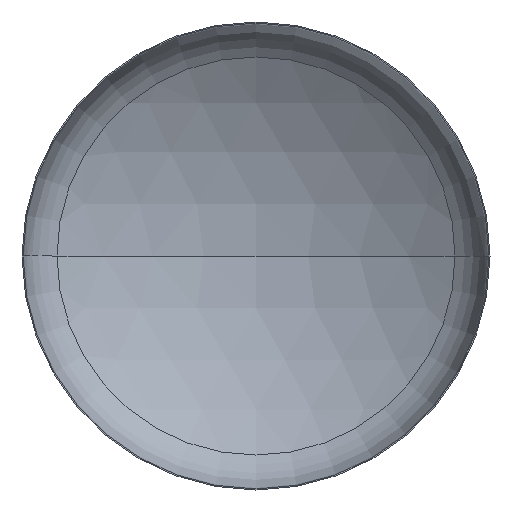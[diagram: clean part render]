
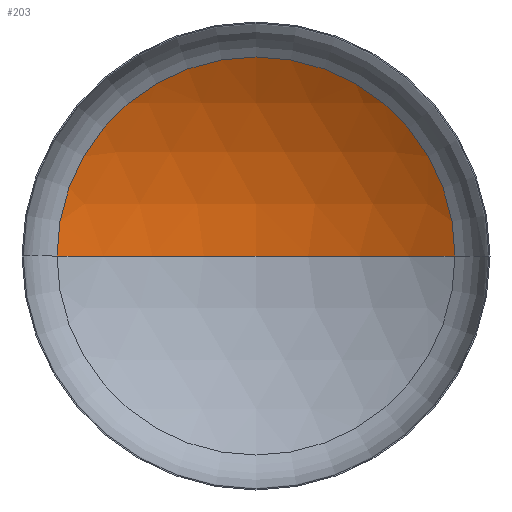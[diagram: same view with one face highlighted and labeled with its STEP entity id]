
A CAD part, front view. The second image highlights one B-rep face of the part: STEP entity #203.
In plain terms, the highlighted spherical face has radius 2720 mm.
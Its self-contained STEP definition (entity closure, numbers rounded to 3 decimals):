
#5 = EDGE_LOOP ( 'NONE', ( #13, #259, #345 ) ) ;
#9 = DIRECTION ( 'NONE',  ( -1., 0., 0. ) ) ;
#10 = DIRECTION ( 'NONE',  ( 0., 0., -1. ) ) ;
#13 = ORIENTED_EDGE ( 'NONE', *, *, #334, .F. ) ;
#22 = DIRECTION ( 'NONE',  ( 1., 0., 0. ) ) ;
#25 = AXIS2_PLACEMENT_3D ( 'NONE', #286, #288, #22 ) ;
#27 = AXIS2_PLACEMENT_3D ( 'NONE', #136, #108, #316 ) ;
#28 = AXIS2_PLACEMENT_3D ( 'NONE', #89, #134, #127 ) ;
#42 = VERTEX_POINT ( 'NONE', #257 ) ;
#49 = VERTEX_POINT ( 'NONE', #251 ) ;
#59 = AXIS2_PLACEMENT_3D ( 'NONE', #91, #10, #9 ) ;
#89 = CARTESIAN_POINT ( 'NONE',  ( 0., 469.652, 0. ) ) ;
#91 = CARTESIAN_POINT ( 'NONE',  ( 0., -1834.069, 0. ) ) ;
#108 = DIRECTION ( 'NONE',  ( 0., 0., -1. ) ) ;
#127 = DIRECTION ( 'NONE',  ( 1., 0., 0. ) ) ;
#134 = DIRECTION ( 'NONE',  ( 0., -1., 0. ) ) ;
#136 = CARTESIAN_POINT ( 'NONE',  ( 0., -1834.069, 0. ) ) ;
#137 = SPHERICAL_SURFACE ( 'NONE', #59, 2720. ) ;
#151 = VERTEX_POINT ( 'NONE', #287 ) ;
#203 = ADVANCED_FACE ( 'NONE', ( #356 ), #137, .F. ) ;
#251 = CARTESIAN_POINT ( 'NONE',  ( 1446.123, 469.652, 0. ) ) ;
#257 = CARTESIAN_POINT ( 'NONE',  ( -1446.123, 469.652, 0. ) ) ;
#259 = ORIENTED_EDGE ( 'NONE', *, *, #333, .T. ) ;
#286 = CARTESIAN_POINT ( 'NONE',  ( 0., -1834.069, 0. ) ) ;
#287 = CARTESIAN_POINT ( 'NONE',  ( 0., 885.931, 0. ) ) ;
#288 = DIRECTION ( 'NONE',  ( 0., 0., 1. ) ) ;
#316 = DIRECTION ( 'NONE',  ( -1., 0., 0. ) ) ;
#324 = EDGE_CURVE ( 'NONE', #49, #42, #344, .T. ) ;
#332 = CIRCLE ( 'NONE', #25, 2720. ) ;
#333 = EDGE_CURVE ( 'NONE', #151, #49, #398, .T. ) ;
#334 = EDGE_CURVE ( 'NONE', #151, #42, #332, .T. ) ;
#344 = CIRCLE ( 'NONE', #28, 1446.123 ) ;
#345 = ORIENTED_EDGE ( 'NONE', *, *, #324, .T. ) ;
#356 = FACE_OUTER_BOUND ( 'NONE', #5, .T. ) ;
#398 = CIRCLE ( 'NONE', #27, 2720. ) ;
